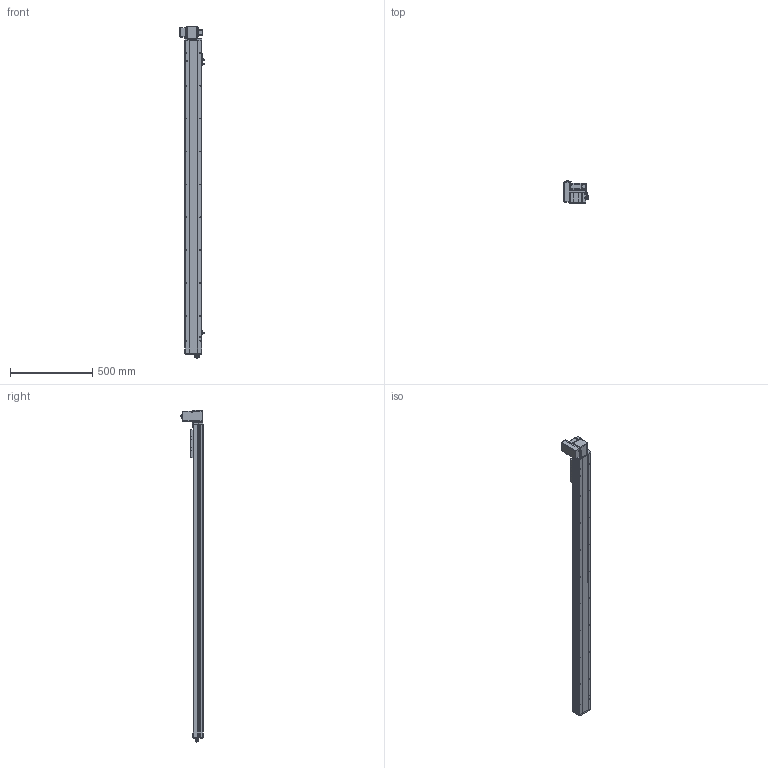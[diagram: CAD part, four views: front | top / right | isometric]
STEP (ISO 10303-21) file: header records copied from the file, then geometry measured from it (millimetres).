
FILE_DESCRIPTION (( 'STEP AP214' ), '1' );
FILE_NAME ('TPE10-L32-1650-LU-T10-C4.STEP', '2023-03-13T06:49:27', ( '' ), ( '' ), 'SwSTEP 2.0', 'SolidWorks 2020', '' );
FILE_SCHEMA (( 'AUTOMOTIVE_DESIGN' ));
Length unit declared in the file: millimetre
Products named in the file (15): 葩璃 TPE10-007 々湍釱MZ-169x88^TPE10-L32-LU-T10-C4; TPE10-L32-1650-LU-T10-C4; 葩璃 TPE10-L-001 菁釱MZ-102A-01^TPE10-L32-LU-T10-C4; 葩璃 PL8-02^TPE10-L32-LU-T10-C4; hex nuts, style 1-grades ab gb_GB_FASTENER_NUT_SNAB1 M3-N; 葩璃 pm-t65-672^TPE10-L32-LU-T10-C4; hexagon socket head cap screws gb_GB_FASTENER_SCREWS_HSHCS M3X6-N; 葩璃 TPT10-L-009 萇儂啣^TPE10-L32-LU-T10-C4_100W; hexagon head bolts-full thread gb_GB_FASTENER_BOLT_STBAB A M5X16-N; 葩璃 TPE10 賑雄殤 TPE10^TPE10-L32-LU-T10-C4; 葩璃 TPE10-L-002 耜裔ZTMT-102B-04^TPE10-L32-LU-T10-C4; 葩璃 侂狟100W^TPE10-L32-LU-T10-C4; 葩璃 詩湍75^TPE10-L32-LU-T10-C4; 葩璃 TPF10 詩湍揤啣 TPF10 12^TPE10-L32-LU-T10-C4; 葩璃 TPF10-L-008 耜醱啣^TPE10-L32-LU-T10-C4
Assembly tree (28 placements, depth 2):
  TPE10-L32-1650-LU-T10-C4
    葩璃 TPE10-L-001 菁釱MZ-102A-01^TPE10-L32-LU-T10-C4
    葩璃 TPE10-L-002 耜裔ZTMT-102B-04^TPE10-L32-LU-T10-C4  x2
    葩璃 詩湍75^TPE10-L32-LU-T10-C4
    葩璃 TPE10-007 々湍釱MZ-169x88^TPE10-L32-LU-T10-C4
    葩璃 TPF10-L-008 耜醱啣^TPE10-L32-LU-T10-C4
    葩璃 TPE10 賑雄殤 TPE10^TPE10-L32-LU-T10-C4
    葩璃 TPF10 詩湍揤啣 TPF10 12^TPE10-L32-LU-T10-C4  x2
    葩璃 TPT10-L-009 萇儂啣^TPE10-L32-LU-T10-C4_100W
    葩璃 pm-t65-672^TPE10-L32-LU-T10-C4  x3
    葩璃 PL8-02^TPE10-L32-LU-T10-C4
    葩璃 侂狟100W^TPE10-L32-LU-T10-C4
    hexagon socket head cap screws gb_GB_FASTENER_SCREWS_HSHCS M3X6-N  x6
    hex nuts, style 1-grades ab gb_GB_FASTENER_NUT_SNAB1 M3-N  x6
    hexagon head bolts-full thread gb_GB_FASTENER_BOLT_STBAB A M5X16-N
Bounding box: 146.2 x 134.65 x 2018.35 mm (x, y, z)
Volume: 6169400.2 mm3; surface area: 1563494.6 mm2
Topology: 36 solids, 36 shells, 1644 faces, 4186 edges, 2634 vertices
Faces by surface type: plane 899, cylinder 501, cone 192, torus 26, bspline 24, sphere 2
Entity records: 38516 total; most frequent: CARTESIAN_POINT 7987, DIRECTION 6036, ORIENTED_EDGE 5808, EDGE_CURVE 2904, AXIS2_PLACEMENT_3D 2133, VERTEX_POINT 1861, LINE 1770, VECTOR 1770
